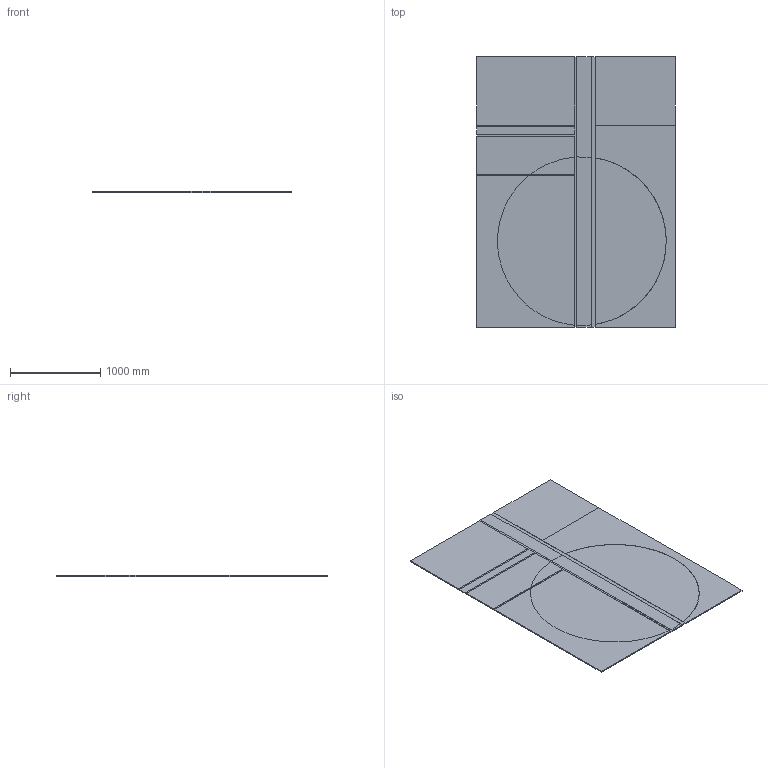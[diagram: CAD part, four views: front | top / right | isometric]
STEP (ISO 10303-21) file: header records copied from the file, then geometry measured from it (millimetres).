
FILE_DESCRIPTION(/* description */ (''),/* implementation_level */ '2;1');
FILE_NAME(/* name */ 'DeStjil-Rug_220x300_3D_JS_20231010',/* time_stamp */ '2023-10-11T11:51:54+02:00',/* author */ (''),/* organization */ (''),/* preprocessor_version */ 'ST-DEVELOPER v16.5',/* originating_system */ 'Rhino 7.33',/* authorisation */ '');
FILE_SCHEMA (('CONFIG_CONTROL_DESIGN'));
Length unit declared in the file: millimetre
Products named in the file (1): Document
Bounding box: 2200 x 3000 x 12 mm (x, y, z)
Volume: 79210588.3 mm3; surface area: 13931273.3 mm2
Topology: 14 solids, 14 shells, 105 faces, 231 edges, 154 vertices
Faces by surface type: plane 92, bspline 9, cylinder 4
Entity records: 2611 total; most frequent: CARTESIAN_POINT 844, ORIENTED_EDGE 462, EDGE_CURVE 231, B_SPLINE_CURVE_WITH_KNOTS 199, VERTEX_POINT 154, ADVANCED_FACE 105, FACE_OUTER_BOUND 105, EDGE_LOOP 105
